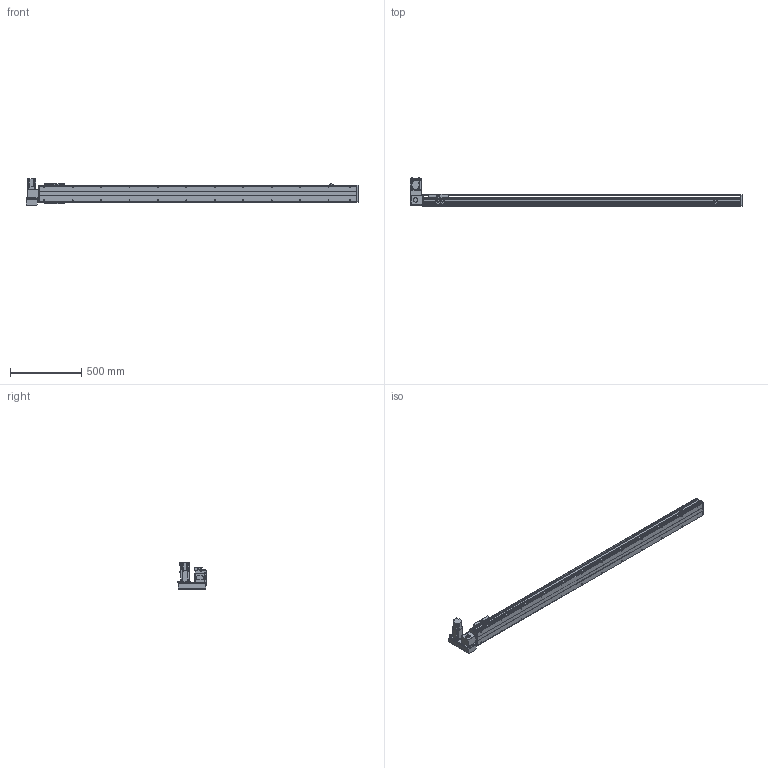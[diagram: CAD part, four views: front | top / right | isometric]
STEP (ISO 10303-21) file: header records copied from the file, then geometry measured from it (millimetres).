
FILE_DESCRIPTION( ( 'STEP AP214' ), '1' );
FILE_NAME( 'x:/temp/worker_27/temp/exporttempdir_6708_123_WNVQQ/format_0/PBS120-P40-S1950-LU-T40-C1-N(0).stp', '2022-06-06T00:33:17', ( 'License CC BY-ND 4.0' ), ( 'CADENAS' ), ' ', 'PARTsolutions', ' ' );
FILE_SCHEMA( ( 'AUTOMOTIVE_DESIGN { 1 0 10303 214 1 1 1 1 }' ) );
Length unit declared in the file: millimetre
Products named in the file (7): PBS120-P40-S1950-LU-T40-C1-N(0); _PBS120-S1950()_body; _PBS120T-LU_motors; _T40-p1; _PBS120_sliser; _PBS120_plant; _PBS120_sensor
Assembly tree (8 placements, depth 2):
  PBS120-P40-S1950-LU-T40-C1-N(0)
    _PBS120-S1950()_body
    _PBS120T-LU_motors
    _T40-p1
    _PBS120_sliser
    _PBS120_plant
    _PBS120_sensor  x3
Bounding box: 2336 x 198 x 189.7 mm (x, y, z)
Volume: 9053500.1 mm3; surface area: 1845993.2 mm2
Topology: 8 solids, 8 shells, 852 faces, 2196 edges, 1411 vertices
Faces by surface type: plane 557, cylinder 237, cone 56, torus 2
Full cylindrical faces by diameter (mm): 2.459 x6, 3.242 x4, 4 x2, 4.134 x4, 4.5 x10, 4.917 x28, 5.5 x11, 6 x2, 6.6 x1, 7 x2, 8.5 x4, 9 x4, 12 x1, 14 x1, 30 x2, 40 x1, 50 x2
Entity records: 27996 total; most frequent: DIRECTION 3836, CARTESIAN_POINT 3749, ORIENTED_EDGE 3550, EDGE_CURVE 1775, AXIS2_PLACEMENT_3D 1304, LINE 1228, VECTOR 1228, VERTEX_POINT 1217
